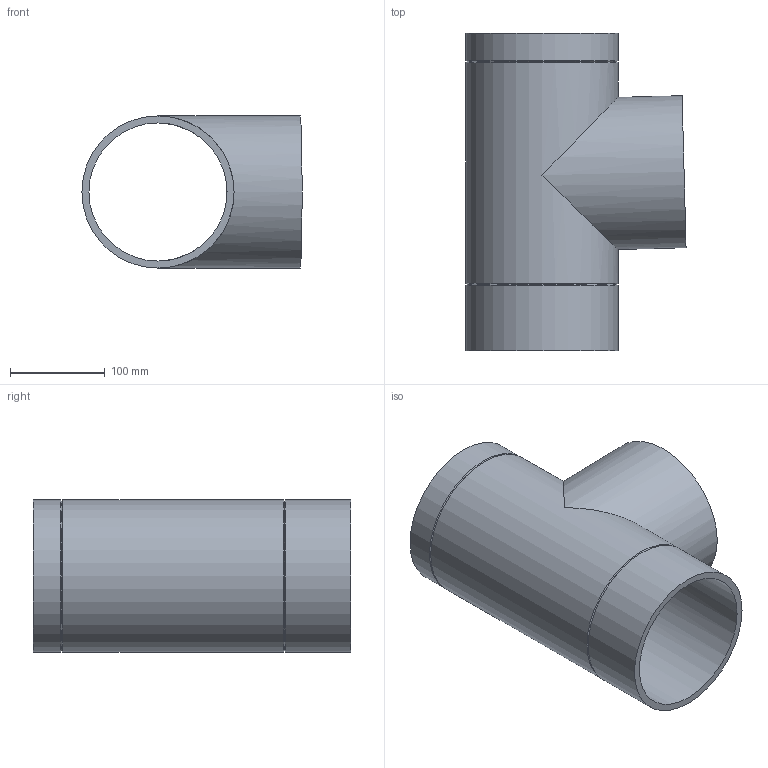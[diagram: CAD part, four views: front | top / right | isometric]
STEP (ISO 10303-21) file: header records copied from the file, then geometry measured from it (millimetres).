
FILE_DESCRIPTION(/* description */ (''),/* implementation_level */ '2;1');
FILE_NAME(/* name */ 'Z:\Geberit\Export\Export18\Abzweig Gerade_Ipart\stp\315148.stp',/* time_stamp */ '2014-08-26T21:50:12+02:00',/* author */ ('ML'),/* organization */ (''),/* preprocessor_version */ 'ST-DEVELOPER v15.2',/* originating_system */ 'Autodesk Inventor 2014',/* authorisation */ '');
FILE_SCHEMA (('AUTOMOTIVE_DESIGN { 1 0 10303 214 3 1 1 }'));
Length unit declared in the file: millimetre
Products named in the file (1): 315148
Bounding box: 232.29 x 335 x 160.47 mm (x, y, z)
Volume: 1368298.4 mm3; surface area: 385025.7 mm2
Topology: 1 solids, 1 shells, 13 faces, 32 edges, 21 vertices
Faces by surface type: cylinder 6, cone 4, plane 3
Full cylindrical faces by diameter (mm): 145.775 x2, 160.475 x4
Entity records: 323 total; most frequent: DIRECTION 60, CARTESIAN_POINT 46, ORIENTED_EDGE 32, AXIS2_PLACEMENT_3D 30, EDGE_LOOP 28, FACE_BOUND 19, VERTEX_POINT 16, EDGE_CURVE 16
